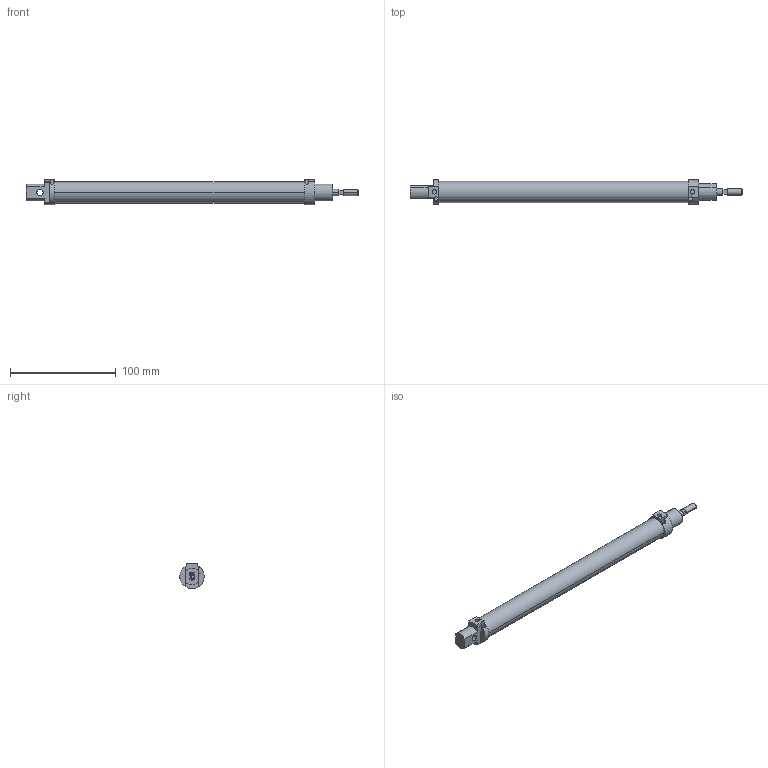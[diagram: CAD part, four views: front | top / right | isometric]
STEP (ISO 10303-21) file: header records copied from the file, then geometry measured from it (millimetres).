
FILE_DESCRIPTION(('CATIA V5 STEP Exchange'),'2;1');
FILE_NAME('D:\stp file for catalog\PSN\16\PSN-16-06-200.stp','2018-04-25T11:01:20+00:00',('none'),('none'),'CATIA Version 5-6 Release 2016','CATIA V5 STEP AP203','none');
FILE_SCHEMA(('CONFIG_CONTROL_DESIGN'));
Length unit declared in the file: millimetre
Products named in the file (1): PSN-16-06-200-00
Assembly tree (2 placements, depth 2):
  PSN-16-06-200-00
    #57
    #4950
Bounding box: 314.25 x 23 x 24 mm (x, y, z)
Volume: 51053.8 mm3; surface area: 40004.1 mm2
Topology: 2 solids, 2 shells, 200 faces, 502 edges, 330 vertices
Faces by surface type: plane 134, cylinder 58, cone 8
Entity records: 5640 total; most frequent: CARTESIAN_POINT 1068, ORIENTED_EDGE 1004, DIRECTION 751, EDGE_CURVE 502, VECTOR 352, LINE 352, VERTEX_POINT 330, AXIS2_PLACEMENT_3D 270
